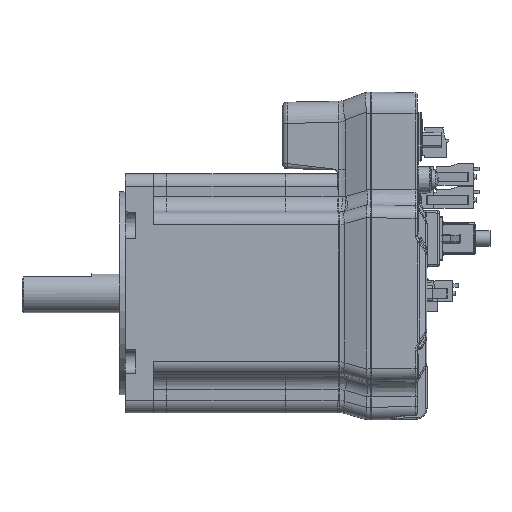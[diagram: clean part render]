
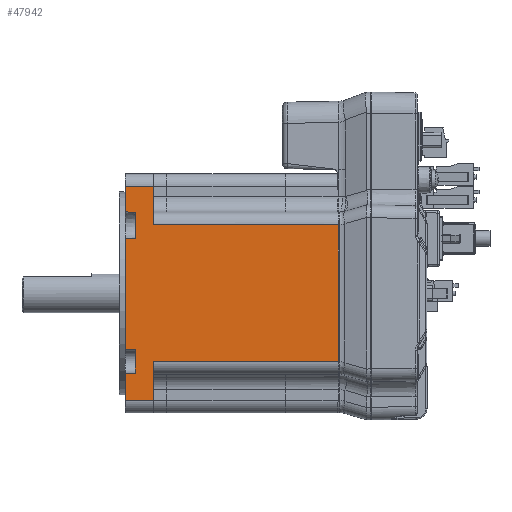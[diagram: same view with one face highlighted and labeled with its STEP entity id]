
A CAD part, left-side view. The second image highlights one B-rep face of the part: STEP entity #47942.
In plain terms, the highlighted planar face has unit normal (-1, 0, 0).
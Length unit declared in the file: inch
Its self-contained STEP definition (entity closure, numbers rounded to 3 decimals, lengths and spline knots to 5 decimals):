
#39510=CARTESIAN_POINT('',(-1.695,3.68028,-0.801));
#39511=VERTEX_POINT('',#39510);
#39518=CARTESIAN_POINT('',(-1.695,3.82628,-0.801));
#39519=VERTEX_POINT('',#39518);
#39520=CARTESIAN_POINT('',(-1.695,3.60028,-0.801));
#39521=DIRECTION('',(0.,-1.,0.));
#39522=VECTOR('',#39521,1.);
#39523=LINE('',#39520,#39522);
#39524=EDGE_CURVE('',#39519,#39511,#39523,.T.);
#45187=CARTESIAN_POINT('',(-1.69508,0.80275,0.97109));
#45188=VERTEX_POINT('',#45187);
#45250=CARTESIAN_POINT('',(-1.69508,0.80275,-0.97109));
#45251=VERTEX_POINT('',#45250);
#45918=CARTESIAN_POINT('',(-1.695,0.80731,-0.4855));
#45919=DIRECTION('',(0.,0.,-1.));
#45920=VECTOR('',#45919,1.);
#45921=LINE('',#45918,#45920);
#45922=EDGE_CURVE('',#45188,#45251,#45921,.T.);
#47793=CARTESIAN_POINT('',(-1.695,3.68028,0.78096));
#47794=VERTEX_POINT('',#47793);
#47801=CARTESIAN_POINT('',(-1.695,3.68028,1.15104));
#47802=VERTEX_POINT('',#47801);
#47803=CARTESIAN_POINT('',(-1.695,3.68028,0.9635));
#47804=DIRECTION('',(0.,0.,-1.));
#47805=VECTOR('',#47804,1.);
#47806=LINE('',#47803,#47805);
#47807=EDGE_CURVE('',#47802,#47794,#47806,.T.);
#47834=CARTESIAN_POINT('',(-1.695,3.82628,0.77841));
#47835=VERTEX_POINT('',#47834);
#47836=CARTESIAN_POINT('',(-1.695,3.51594,0.78382));
#47837=DIRECTION('',(0.,1.,-0.017));
#47838=VECTOR('',#47837,1.);
#47839=LINE('',#47836,#47838);
#47840=EDGE_CURVE('',#47794,#47835,#47839,.T.);
#47841=ORIENTED_EDGE('',*,*,#47840,.T.);
#47842=CARTESIAN_POINT('',(-1.695,3.82628,-0.4855));
#47843=DIRECTION('',(0.,0.,1.));
#47844=VECTOR('',#47843,1.);
#47845=LINE('',#47842,#47844);
#47846=EDGE_CURVE('',#39519,#47835,#47845,.T.);
#47847=ORIENTED_EDGE('',*,*,#47846,.F.);
#47848=ORIENTED_EDGE('',*,*,#39524,.T.);
#47849=CARTESIAN_POINT('',(-1.695,3.68028,-1.131));
#47850=VERTEX_POINT('',#47849);
#47851=CARTESIAN_POINT('',(-1.695,3.68028,-0.0025));
#47852=DIRECTION('',(0.,0.,1.));
#47853=VECTOR('',#47852,1.);
#47854=LINE('',#47851,#47853);
#47855=EDGE_CURVE('',#47850,#39511,#47854,.T.);
#47856=ORIENTED_EDGE('',*,*,#47855,.F.);
#47857=CARTESIAN_POINT('',(-1.695,3.82628,-1.131));
#47858=VERTEX_POINT('',#47857);
#47859=CARTESIAN_POINT('',(-1.695,3.60028,-1.131));
#47860=DIRECTION('',(0.,1.,0.));
#47861=VECTOR('',#47860,1.);
#47862=LINE('',#47859,#47861);
#47863=EDGE_CURVE('',#47850,#47858,#47862,.T.);
#47864=ORIENTED_EDGE('',*,*,#47863,.T.);
#47865=CARTESIAN_POINT('',(-1.695,3.82628,-1.515));
#47866=VERTEX_POINT('',#47865);
#47867=CARTESIAN_POINT('',(-1.695,3.82628,-0.4855));
#47868=DIRECTION('',(0.,0.,1.));
#47869=VECTOR('',#47868,1.);
#47870=LINE('',#47867,#47869);
#47871=EDGE_CURVE('',#47866,#47858,#47870,.T.);
#47872=ORIENTED_EDGE('',*,*,#47871,.F.);
#47873=CARTESIAN_POINT('',(-1.695,3.42628,-1.515));
#47874=VERTEX_POINT('',#47873);
#47875=CARTESIAN_POINT('',(-1.695,3.46528,-1.515));
#47876=DIRECTION('',(0.,1.,0.));
#47877=VECTOR('',#47876,39.37008);
#47878=LINE('',#47875,#47877);
#47879=EDGE_CURVE('',#47874,#47866,#47878,.T.);
#47880=ORIENTED_EDGE('',*,*,#47879,.F.);
#47881=CARTESIAN_POINT('',(-1.695,3.42628,-0.971));
#47882=VERTEX_POINT('',#47881);
#47883=CARTESIAN_POINT('',(-1.695,3.42628,-0.4855));
#47884=DIRECTION('',(0.,0.,1.));
#47885=VECTOR('',#47884,1.);
#47886=LINE('',#47883,#47885);
#47887=EDGE_CURVE('',#47874,#47882,#47886,.T.);
#47888=ORIENTED_EDGE('',*,*,#47887,.T.);
#47889=CARTESIAN_POINT('',(-1.695,3.33528,-0.971));
#47890=DIRECTION('',(0.,-1.,0.));
#47891=VECTOR('',#47890,39.37008);
#47892=LINE('',#47889,#47891);
#47893=EDGE_CURVE('',#47882,#45251,#47892,.T.);
#47894=ORIENTED_EDGE('',*,*,#47893,.T.);
#47895=ORIENTED_EDGE('',*,*,#45922,.F.);
#47896=CARTESIAN_POINT('',(-1.695,3.42628,0.971));
#47897=VERTEX_POINT('',#47896);
#47898=CARTESIAN_POINT('',(-1.695,0.906,0.971));
#47899=DIRECTION('',(0.,1.,0.));
#47900=VECTOR('',#47899,39.37008);
#47901=LINE('',#47898,#47900);
#47902=EDGE_CURVE('',#45188,#47897,#47901,.T.);
#47903=ORIENTED_EDGE('',*,*,#47902,.T.);
#47904=CARTESIAN_POINT('',(-1.695,3.42628,1.515));
#47905=VERTEX_POINT('',#47904);
#47906=CARTESIAN_POINT('',(-1.695,3.42628,-0.4855));
#47907=DIRECTION('',(0.,0.,1.));
#47908=VECTOR('',#47907,1.);
#47909=LINE('',#47906,#47908);
#47910=EDGE_CURVE('',#47897,#47905,#47909,.T.);
#47911=ORIENTED_EDGE('',*,*,#47910,.T.);
#47912=CARTESIAN_POINT('',(-1.695,3.82628,1.515));
#47913=VERTEX_POINT('',#47912);
#47914=CARTESIAN_POINT('',(-1.695,3.46528,1.515));
#47915=DIRECTION('',(0.,1.,0.));
#47916=VECTOR('',#47915,39.37008);
#47917=LINE('',#47914,#47916);
#47918=EDGE_CURVE('',#47905,#47913,#47917,.T.);
#47919=ORIENTED_EDGE('',*,*,#47918,.T.);
#47920=CARTESIAN_POINT('',(-1.695,3.82628,1.15359));
#47921=VERTEX_POINT('',#47920);
#47922=CARTESIAN_POINT('',(-1.695,3.82628,-0.4855));
#47923=DIRECTION('',(0.,0.,1.));
#47924=VECTOR('',#47923,1.);
#47925=LINE('',#47922,#47924);
#47926=EDGE_CURVE('',#47921,#47913,#47925,.T.);
#47927=ORIENTED_EDGE('',*,*,#47926,.F.);
#47928=CARTESIAN_POINT('',(-1.695,3.48214,1.14758));
#47929=DIRECTION('',(0.,-1.,-0.017));
#47930=VECTOR('',#47929,1.);
#47931=LINE('',#47928,#47930);
#47932=EDGE_CURVE('',#47921,#47802,#47931,.T.);
#47933=ORIENTED_EDGE('',*,*,#47932,.T.);
#47934=ORIENTED_EDGE('',*,*,#47807,.T.);
#47935=EDGE_LOOP('',(#47841,#47847,#47848,#47856,#47864,#47872,#47880,#47888,#47894,#47895,#47903,#47911,#47919,#47927,#47933,#47934));
#47936=FACE_OUTER_BOUND('',#47935,.T.);
#47937=CARTESIAN_POINT('',(-1.695,3.33528,-0.971));
#47938=DIRECTION('',(-1.,0.,0.));
#47939=DIRECTION('',(0.,0.,-1.));
#47940=AXIS2_PLACEMENT_3D('',#47937,#47938,#47939);
#47941=PLANE('',#47940);
#47942=ADVANCED_FACE('',(#47936),#47941,.T.);
